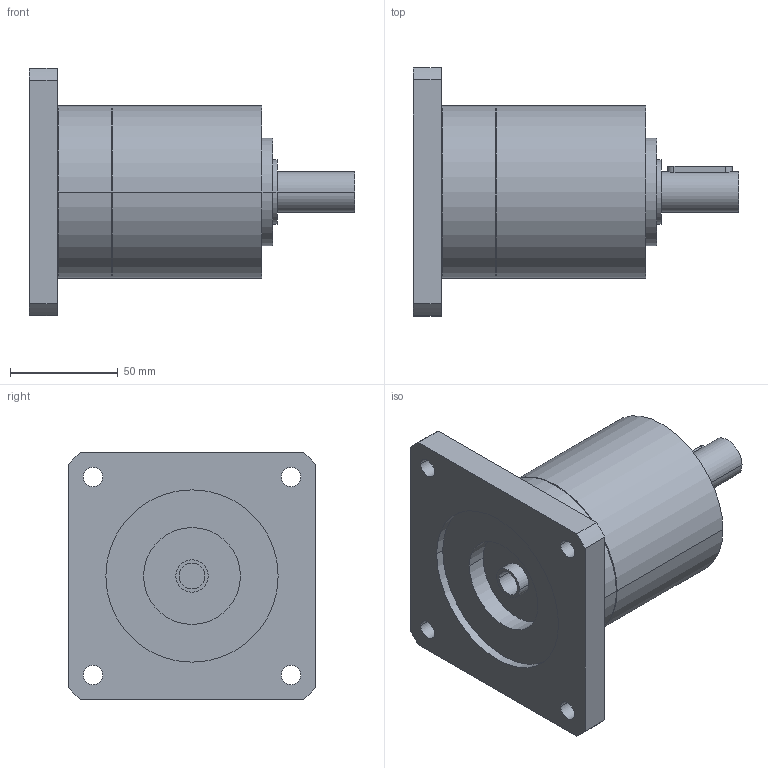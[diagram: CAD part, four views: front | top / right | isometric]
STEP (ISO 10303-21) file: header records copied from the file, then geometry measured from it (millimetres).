
FILE_DESCRIPTION(('CoCreate Modeling STEP Export'),'2;1');
FILE_NAME('GPR100_ig-3-4-5-6_19_B14_12_P30.stp','2014-08-26T10:06:18',(''),(''),'CoCreate Modeling STEP processor for AP214 (Solid Model)','CoCreate Modeling 16.00C 25-Feb-2009 (C) Parametric Technology GmbH','');
FILE_SCHEMA(('AUTOMOTIVE_DESIGN { 1 0 10303 214 1 1 1 1 }'));
Length unit declared in the file: millimetre
Products named in the file (2): GPR100_ig-3-4-5-6_19_B14_12_P30
Assembly tree (1 placements, depth 2):
  GPR100_ig-3-4-5-6_19_B14_12_P30
    GPR100_ig-3-4-5-6_19_B14_12_P30
Bounding box: 151 x 115 x 115 mm (x, y, z)
Volume: 629259.7 mm3; surface area: 65433.3 mm2
Topology: 1 solids, 1 shells, 70 faces, 180 edges, 124 vertices
Faces by surface type: cylinder 42, plane 22, cone 6
Entity records: 1899 total; most frequent: ORIENTED_EDGE 356, CARTESIAN_POINT 352, DIRECTION 262, EDGE_CURVE 178, VERTEX_POINT 124, AXIS2_PLACEMENT_3D 98, EDGE_LOOP 92, FACE_OUTER_BOUND 70
